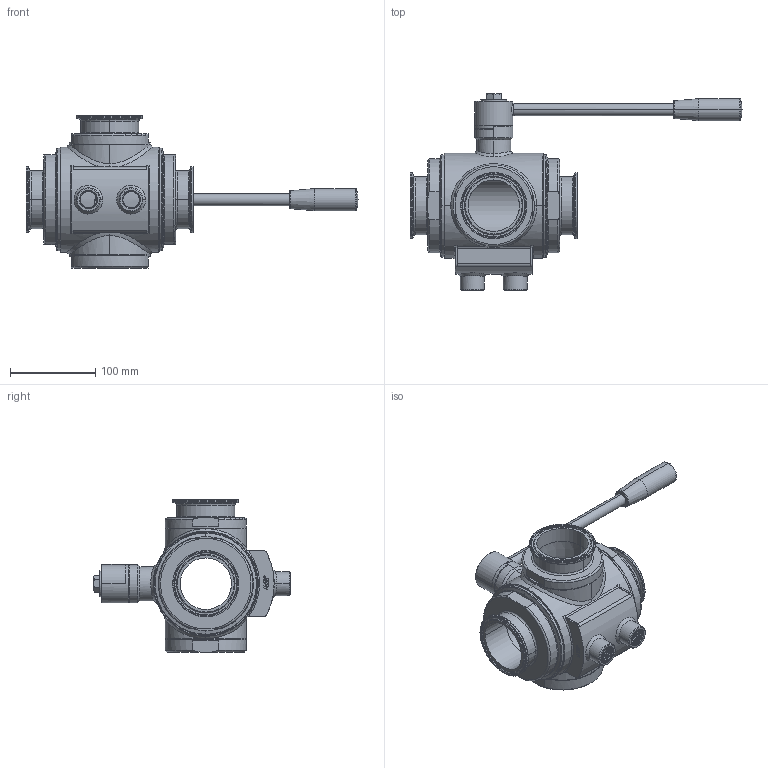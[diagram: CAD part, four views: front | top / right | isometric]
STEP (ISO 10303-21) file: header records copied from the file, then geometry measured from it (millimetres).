
FILE_DESCRIPTION((''),'2;1');
FILE_NAME('300130C64410_SW0001','2026-06-09T10:50:18',('tecnico2'),('CDM Tecnoconsulting'),'CREO PARAMETRIC BY PTC INC, 2024063','CREO PARAMETRIC BY PTC INC, 2024063','');
FILE_SCHEMA(('CONFIG_CONTROL_DESIGN','SHAPE_APPEARANCE_LAYERS_GROUPS'));
Products named in the file (1): 300130C64410_SW0001
Bounding box: 388.5 x 230.3 x 178 mm (x, y, z)
Volume: 1490800.4 mm3; surface area: 315421.5 mm2
Topology: 1 solids, 1 shells, 1361 faces, 3617 edges, 2305 vertices
Faces by surface type: plane 582, cylinder 282, extrusion 168, cone 154, bspline 85, torus 84, sphere 6
Entity records: 91076 total; most frequent: CARTESIAN_POINT 45623, ORIENTED_EDGE 7198, DIRECTION 5822, PRESENTATION_STYLE_ASSIGNMENT 3954, STYLED_ITEM 3656, CURVE_STYLE 3655, EDGE_CURVE 3599, VERTEX_POINT 2305
